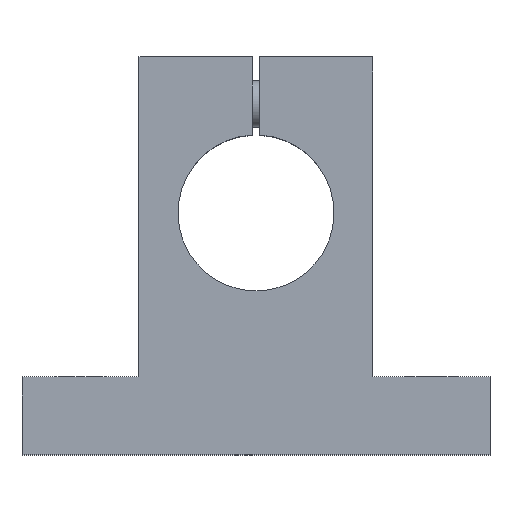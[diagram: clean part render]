
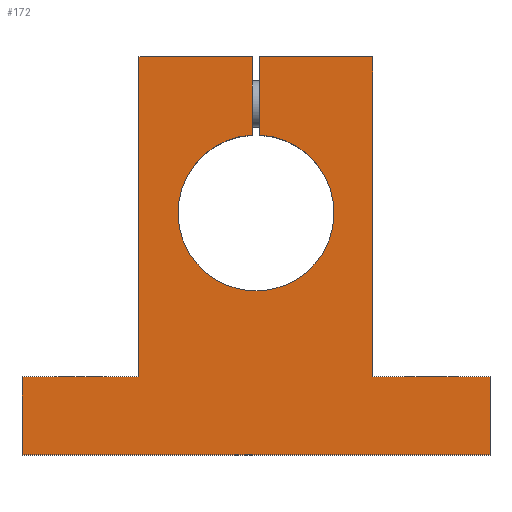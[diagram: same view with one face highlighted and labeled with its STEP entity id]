
A CAD part, top view. The second image highlights one B-rep face of the part: STEP entity #172.
In plain terms, the highlighted planar face has unit normal (0, 0, 1).
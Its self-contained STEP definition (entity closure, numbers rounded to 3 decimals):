
#172=ADVANCED_FACE('',(#210),#211,.F.);
#210=FACE_OUTER_BOUND('',#299,.T.);
#211=PLANE('',#300);
#299=EDGE_LOOP('',(#393,#394,#395,#396,#397,#398,#399,#400,#401,#402,#403,#404));
#300=AXIS2_PLACEMENT_3D('',#405,#406,#407);
#393=ORIENTED_EDGE('',*,*,#634,.T.);
#394=ORIENTED_EDGE('',*,*,#635,.T.);
#395=ORIENTED_EDGE('',*,*,#636,.T.);
#396=ORIENTED_EDGE('',*,*,#637,.T.);
#397=ORIENTED_EDGE('',*,*,#638,.T.);
#398=ORIENTED_EDGE('',*,*,#639,.T.);
#399=ORIENTED_EDGE('',*,*,#640,.T.);
#400=ORIENTED_EDGE('',*,*,#641,.T.);
#401=ORIENTED_EDGE('',*,*,#642,.T.);
#402=ORIENTED_EDGE('',*,*,#643,.T.);
#403=ORIENTED_EDGE('',*,*,#644,.T.);
#404=ORIENTED_EDGE('',*,*,#632,.T.);
#405=CARTESIAN_POINT('',(0.0,0.0,10.0));
#406=DIRECTION('',(0.0,0.0,-1.0));
#407=DIRECTION('',(1.0,0.0,0.0));
#632=EDGE_CURVE('',#707,#705,#708,.T.);
#634=EDGE_CURVE('',#705,#710,#711,.T.);
#635=EDGE_CURVE('',#710,#712,#713,.T.);
#636=EDGE_CURVE('',#712,#714,#715,.T.);
#637=EDGE_CURVE('',#714,#716,#717,.T.);
#638=EDGE_CURVE('',#716,#718,#719,.T.);
#639=EDGE_CURVE('',#718,#720,#721,.T.);
#640=EDGE_CURVE('',#720,#722,#723,.T.);
#641=EDGE_CURVE('',#722,#724,#725,.T.);
#642=EDGE_CURVE('',#724,#726,#727,.T.);
#643=EDGE_CURVE('',#726,#728,#729,.T.);
#644=EDGE_CURVE('',#728,#707,#730,.T.);
#705=VERTEX_POINT('',#828);
#707=VERTEX_POINT('',#831);
#708=LINE('',#832,#833);
#710=VERTEX_POINT('',#836);
#711=LINE('',#837,#838);
#712=VERTEX_POINT('',#839);
#713=LINE('',#840,#841);
#714=VERTEX_POINT('',#842);
#715=LINE('',#843,#844);
#716=VERTEX_POINT('',#845);
#717=LINE('',#846,#847);
#718=VERTEX_POINT('',#848);
#719=LINE('',#849,#850);
#720=VERTEX_POINT('',#851);
#721=LINE('',#852,#853);
#722=VERTEX_POINT('',#854);
#723=LINE('',#855,#856);
#724=VERTEX_POINT('',#857);
#725=LINE('',#858,#859);
#726=VERTEX_POINT('',#860);
#727=LINE('',#861,#862);
#728=VERTEX_POINT('',#863);
#729=LINE('',#864,#865);
#730=CIRCLE('',#866,10.0);
#828=CARTESIAN_POINT('',(-0.5,20.0,10.0));
#831=CARTESIAN_POINT('',(-0.5,9.987,10.0));
#832=CARTESIAN_POINT('',(-0.5,9.987,10.0));
#833=VECTOR('',#1034,1.0);
#836=CARTESIAN_POINT('',(-15.0,20.0,10.0));
#837=CARTESIAN_POINT('',(-0.5,20.0,10.0));
#838=VECTOR('',#1036,1.0);
#839=CARTESIAN_POINT('',(-15.0,-21.0,10.0));
#840=CARTESIAN_POINT('',(-15.0,20.0,10.0));
#841=VECTOR('',#1037,1.0);
#842=CARTESIAN_POINT('',(-30.0,-21.0,10.0));
#843=CARTESIAN_POINT('',(-15.0,-21.0,10.0));
#844=VECTOR('',#1038,1.0);
#845=CARTESIAN_POINT('',(-30.0,-31.0,10.0));
#846=CARTESIAN_POINT('',(-30.0,-21.0,10.0));
#847=VECTOR('',#1039,1.0);
#848=CARTESIAN_POINT('',(30.0,-31.0,10.0));
#849=CARTESIAN_POINT('',(-30.0,-31.0,10.0));
#850=VECTOR('',#1040,1.0);
#851=CARTESIAN_POINT('',(30.0,-21.0,10.0));
#852=CARTESIAN_POINT('',(30.0,-31.0,10.0));
#853=VECTOR('',#1041,1.0);
#854=CARTESIAN_POINT('',(15.0,-21.0,10.0));
#855=CARTESIAN_POINT('',(30.0,-21.0,10.0));
#856=VECTOR('',#1042,1.0);
#857=CARTESIAN_POINT('',(15.0,20.0,10.0));
#858=CARTESIAN_POINT('',(15.0,-21.0,10.0));
#859=VECTOR('',#1043,1.0);
#860=CARTESIAN_POINT('',(0.5,20.0,10.0));
#861=CARTESIAN_POINT('',(15.0,20.0,10.0));
#862=VECTOR('',#1044,1.0);
#863=CARTESIAN_POINT('',(0.5,9.987,10.0));
#864=CARTESIAN_POINT('',(0.5,20.0,10.0));
#865=VECTOR('',#1045,1.0);
#866=AXIS2_PLACEMENT_3D('',#1046,#1047,#1048);
#1034=DIRECTION('',(0.0,1.0,0.0));
#1036=DIRECTION('',(-1.0,0.0,0.0));
#1037=DIRECTION('',(0.0,-1.0,0.0));
#1038=DIRECTION('',(-1.0,0.0,0.0));
#1039=DIRECTION('',(0.0,-1.0,0.0));
#1040=DIRECTION('',(1.0,0.0,0.0));
#1041=DIRECTION('',(0.0,1.0,0.0));
#1042=DIRECTION('',(-1.0,0.0,0.0));
#1043=DIRECTION('',(0.0,1.0,0.0));
#1044=DIRECTION('',(-1.0,0.0,0.0));
#1045=DIRECTION('',(0.0,-1.0,0.0));
#1046=CARTESIAN_POINT('',(0.0,0.0,10.0));
#1047=DIRECTION('',(0.0,0.0,-1.0));
#1048=DIRECTION('',(1.0,0.0,0.0));
